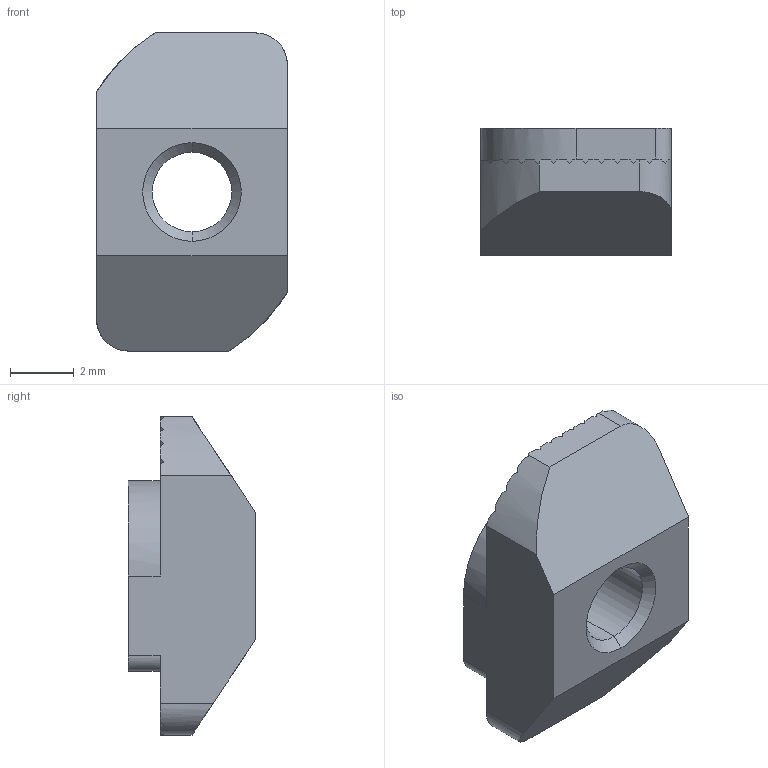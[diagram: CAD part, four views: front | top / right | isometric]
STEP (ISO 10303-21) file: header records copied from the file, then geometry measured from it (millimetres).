
FILE_DESCRIPTION (( 'STEP AP203' ), '1' );
FILE_NAME ('LIMA-RN3-62020.STEP', '2018-03-15T12:22:42', ( '' ), ( '' ), 'SwSTEP 2.0', 'SolidWorks 2013', '' );
FILE_SCHEMA (( 'CONFIG_CONTROL_DESIGN' ));
Length unit declared in the file: millimetre
Products named in the file (1): LIMA-RN3-62020
Bounding box: 6 x 4 x 10 mm (x, y, z)
Volume: 150 mm3; surface area: 221.3 mm2
Topology: 1 solids, 1 shells, 98 faces, 284 edges, 188 vertices
Faces by surface type: plane 84, cylinder 10, cone 4
Entity records: 3282 total; most frequent: CARTESIAN_POINT 739, ORIENTED_EDGE 568, DIRECTION 471, EDGE_CURVE 284, VERTEX_POINT 188, VECTOR 183, LINE 183, AXIS2_PLACEMENT_3D 144
